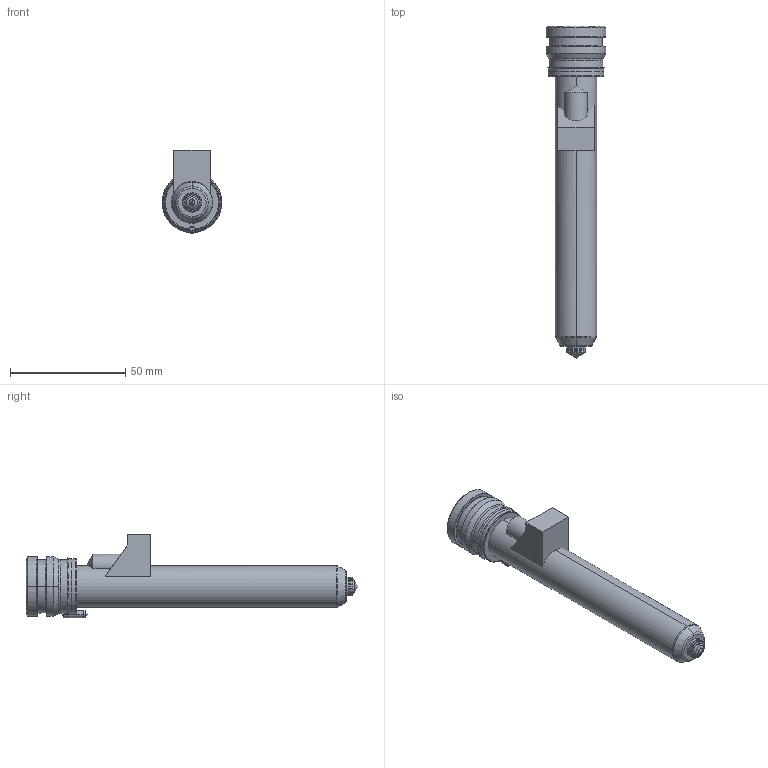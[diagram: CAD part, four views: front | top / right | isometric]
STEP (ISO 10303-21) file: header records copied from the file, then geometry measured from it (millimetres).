
FILE_DESCRIPTION((''),'2;1');
FILE_NAME('TH18126-M-1-PK-JG','2023-12-14T',('umhib'),('Thermoplay S.p.A.'),'PRO/ENGINEER BY PARAMETRIC TECHNOLOGY CORPORATION, 2017170','PRO/ENGINEER BY PARAMETRIC TECHNOLOGY CORPORATION, 2017170','');
FILE_SCHEMA(('CONFIG_CONTROL_DESIGN'));
Length unit declared in the file: millimetre
Products named in the file (1): TH18126-M-1-PK-JG
Bounding box: 26 x 144 x 36.1 mm (x, y, z)
Volume: 29672.8 mm3; surface area: 22532.7 mm2
Topology: 1 solids, 2 shells, 391 faces, 999 edges, 613 vertices
Faces by surface type: cylinder 149, plane 87, cone 62, torus 58, bspline 22, sphere 11, extrusion 2
Entity records: 16792 total; most frequent: CARTESIAN_POINT 5164, DIRECTION 2000, ORIENTED_EDGE 1972, EDGE_CURVE 988, AXIS2_PLACEMENT_3D 806, VERTEX_POINT 613, CIRCLE 438, EDGE_LOOP 414
